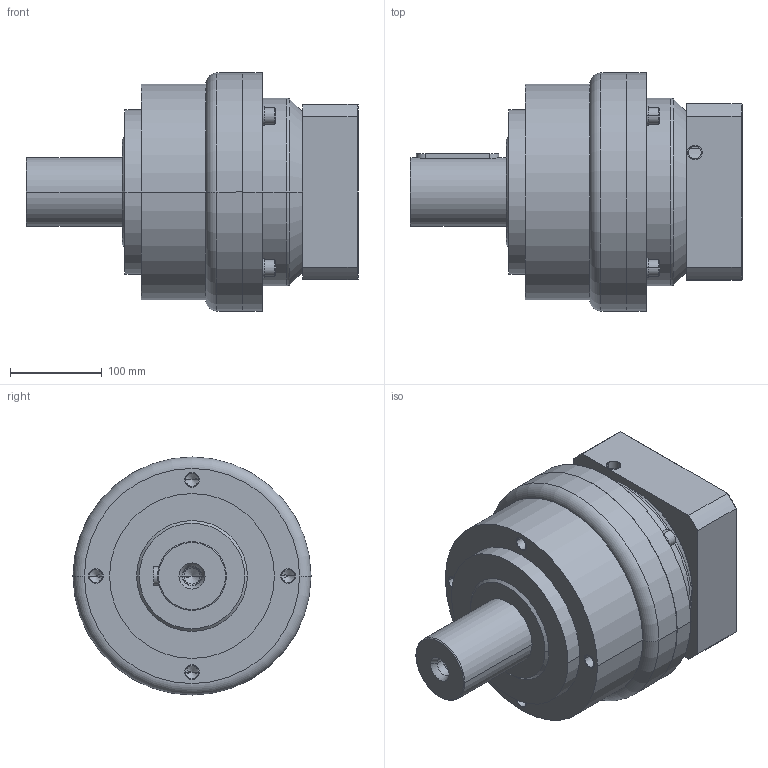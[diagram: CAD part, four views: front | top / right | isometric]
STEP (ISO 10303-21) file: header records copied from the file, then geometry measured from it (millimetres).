
FILE_DESCRIPTION((''),'2;1');
FILE_NAME('AE2351-P0403790008_ASM','2021-07-15T',('Administrator'),(''),'PRO/ENGINEER BY PARAMETRIC TECHNOLOGY CORPORATION, 2015240','PRO/ENGINEER BY PARAMETRIC TECHNOLOGY CORPORATION, 2015240','');
FILE_SCHEMA(('CONFIG_CONTROL_DESIGN'));
Length unit declared in the file: millimetre
Products named in the file (6): P1302700001_D; AE235; AB-INPUTSHAFT-7; AE2351_ASM; P0403790008-0001; AE2351-P0403790008_ASM
Assembly tree (5 placements, depth 3):
  AE2351-P0403790008_ASM
    AE2351_ASM
      P1302700001_D
      AE235
      AB-INPUTSHAFT-7
    P0403790008-0001
Bounding box: 362.5 x 260 x 260 mm (x, y, z)
Volume: 9943941.4 mm3; surface area: 604173 mm2
Topology: 4 solids, 14 shells, 234 faces, 545 edges, 343 vertices
Faces by surface type: cylinder 123, plane 59, cone 36, torus 12, bspline 4
Entity records: 7042 total; most frequent: DIRECTION 1327, CARTESIAN_POINT 1319, ORIENTED_EDGE 1014, AXIS2_PLACEMENT_3D 561, EDGE_CURVE 527, VERTEX_POINT 343, CIRCLE 313, EDGE_LOOP 302
